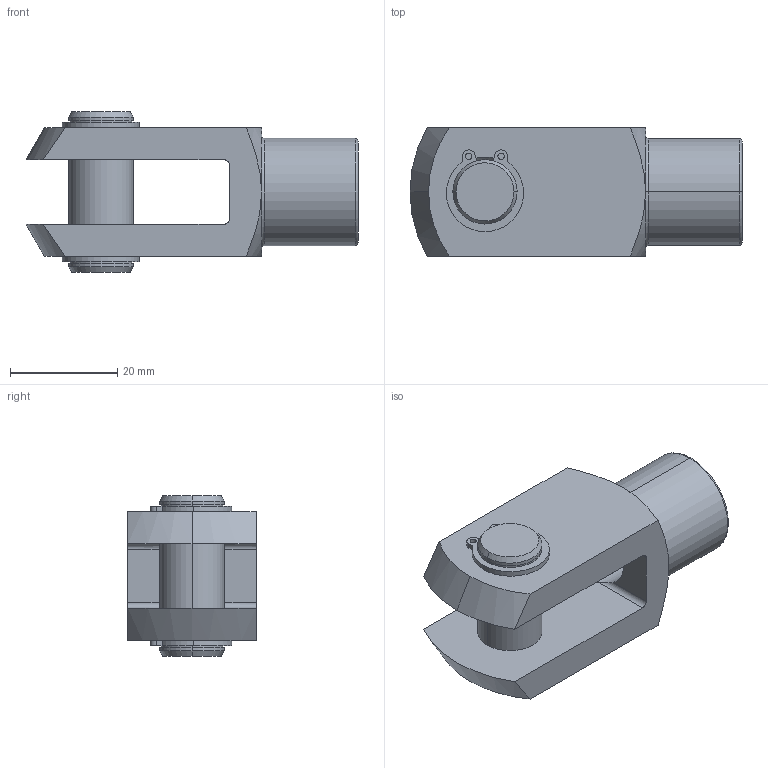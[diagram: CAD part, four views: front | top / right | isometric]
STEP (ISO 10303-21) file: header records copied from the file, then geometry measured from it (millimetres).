
FILE_DESCRIPTION (( 'STEP AP203' ), '1' );
FILE_NAME ('65616.W0122.step', '2014-01-18T10:32:22', ( 'User' ), ( '' ), 'SwSTEP 2.0', 'SolidWorks 2009', '' );
FILE_SCHEMA (( 'CONFIG_CONTROL_DESIGN' ));
Length unit declared in the file: millimetre
Products named in the file (4): 65616.W0122; Part1_65636.W0122; Part2_65666.W0012; Part3_65678.W0012
Assembly tree (4 placements, depth 2):
  65616.W0122
    Part3_65678.W0012  x2
    Part1_65636.W0122
    Part2_65666.W0012
Bounding box: 62 x 24 x 30 mm (x, y, z)
Volume: 18488.4 mm3; surface area: 9336 mm2
Topology: 4 solids, 4 shells, 95 faces, 227 edges, 144 vertices
Faces by surface type: cylinder 46, plane 28, cone 17, torus 4
Entity records: 2767 total; most frequent: CARTESIAN_POINT 499, DIRECTION 423, ORIENTED_EDGE 358, EDGE_CURVE 179, AXIS2_PLACEMENT_3D 176, VERTEX_POINT 112, CIRCLE 92, EDGE_LOOP 91
